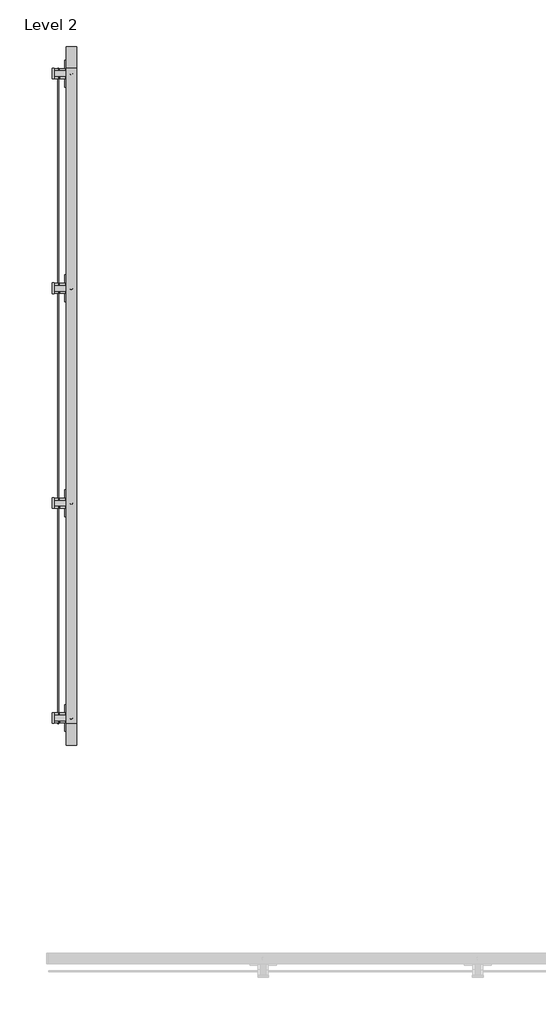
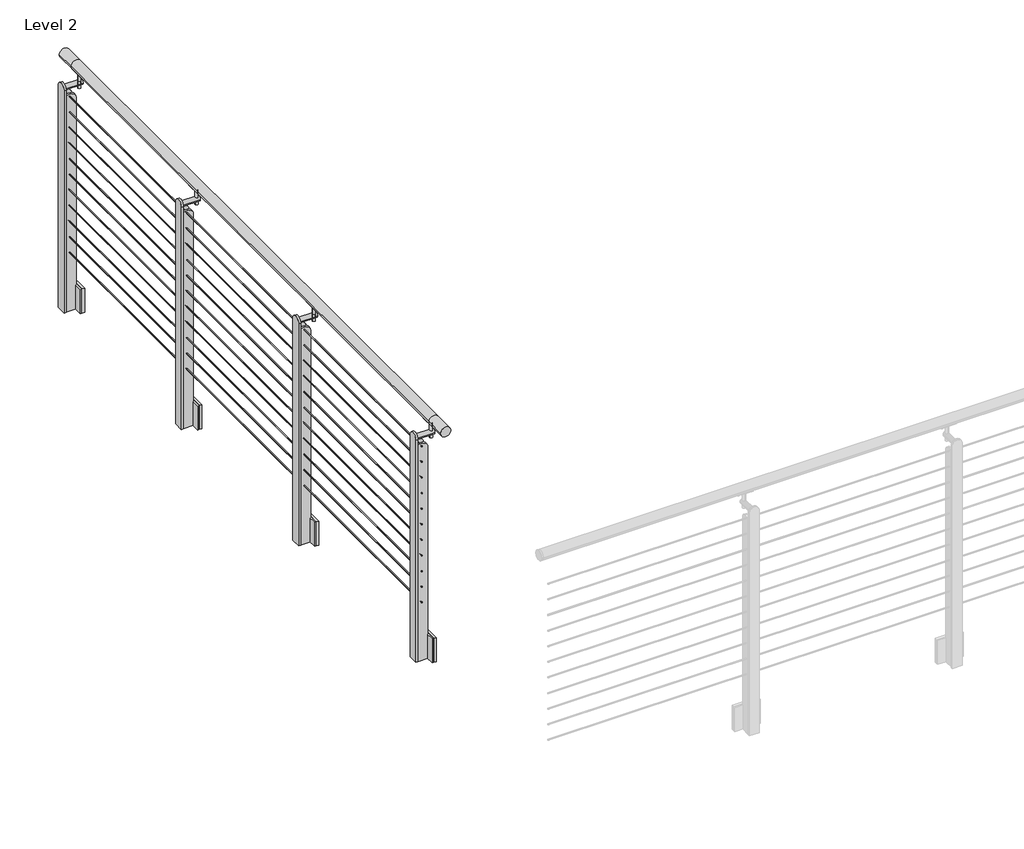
# One storey, part 1 of 12: 1 railing.
"""IFC4 building model written with IfcOpenShell, lengths in millimetres."""

from ifc_helpers import new_model, si_unit, point, frame, frame_2d, origin, place, context, project, spatial, polyline, circle_curve, trimmed, segment, composite_curve, outline, extrude, element, save
from ifc_brep_helpers import plane_surface, cylinder_surface, advanced_brep

model = new_model("IFC4")

# Units and contexts
model_context = context("Model", 3, world=origin())
ifc_project = project(units=[si_unit("LENGTHUNIT", "METRE", prefix="MILLI")], contexts=[model_context])

# Site, building, storey
site = spatial("IfcSite", under=ifc_project)
building = spatial("IfcBuilding", under=site)
storey = spatial("IfcBuildingStorey", under=building, Name="Level 2", Elevation=3048.0)

# Railing
placement = place(None, origin())
element("IfcRailing", 1, ObjectType="VIVA-TEE-Cable-Fascia Mount-Straight", at=placement, inside=storey, context=model_context, shape_type="SolidModel", body=[
    advanced_brep(
    [(-9128.5564794, -51224.8441551, 4102.1), (-9179.3564794, -51224.8441551, 4102.1), (-9128.5564794, -51123.2441551, 4102.1), (-9179.3564794, -51123.2441551, 4102.1), (-9128.5564794, -48021.6926165, 4102.1), (-9179.3564794, -48021.6926165, 4102.1), (-9128.5564794, -47920.0926165, 4102.1), (-9179.3564794, -47920.0926165, 4102.1)],
    [
        (0, 1, circle_curve(frame((-9153.9564794, -51224.8441551, 4102.1), z_axis=(0.0, -1.0, 0.0), x_axis=(-1.0, 0.0, 0.0)), 25.4)),
        (1, 0, circle_curve(frame((-9153.9564794, -51224.8441551, 4102.1), z_axis=(0.0, -1.0, 0.0), x_axis=(-1.0, 0.0, 0.0)), 25.4)),
        (0, 2),
        (2, 3, circle_curve(frame((-9153.9564794, -51123.2441551, 4102.1), z_axis=(0.0, -1.0, 0.0), x_axis=(-1.0, 0.0, 0.0)), 25.4)),
        (3, 1),
        (3, 2, circle_curve(frame((-9153.9564794, -51123.2441551, 4102.1), z_axis=(0.0, -1.0, 0.0), x_axis=(-1.0, 0.0, 0.0)), 25.4)),
        (2, 4),
        (4, 5, circle_curve(frame((-9153.9564794, -48021.6926165, 4102.1), z_axis=(0.0, -1.0, 0.0), x_axis=(-1.0, 0.0, 0.0)), 25.4)),
        (5, 3),
        (5, 4, circle_curve(frame((-9153.9564794, -48021.6926165, 4102.1), z_axis=(0.0, -1.0, 0.0), x_axis=(-1.0, 0.0, 0.0)), 25.4)),
        (6, 7, circle_curve(frame((-9153.9564794, -47920.0926165, 4102.1), z_axis=(0.0, 1.0, 0.0), x_axis=(-1.0, 0.0, 0.0)), 25.4)),
        (7, 6, circle_curve(frame((-9153.9564794, -47920.0926165, 4102.1), z_axis=(0.0, 1.0, 0.0), x_axis=(-1.0, 0.0, 0.0)), 25.4)),
        (4, 6),
        (7, 5),
    ],
    [
        plane_surface(frame((-9153.9564794, -51224.8441551, 4127.5), z_axis=(0.0, -1.0, 0.0), x_axis=(0.0, 0.0, 1.0))),
        cylinder_surface(frame((-9153.9564794, -51224.8441551, 4102.1), z_axis=(0.0, -1.0, 0.0), x_axis=(-1.0, 0.0, 0.0)), 25.4),
        cylinder_surface(frame((-9153.9564794, -51123.2441551, 4102.1), z_axis=(0.0, -1.0, 0.0), x_axis=(-1.0, 0.0, 0.0)), 25.4),
        plane_surface(frame((-9153.9564794, -47920.0926165, 4127.5), z_axis=(0.0, 1.0, 0.0), x_axis=(0.0, 0.0, 1.0))),
        cylinder_surface(frame((-9153.9564794, -48021.6926165, 4102.1), z_axis=(0.0, -1.0, 0.0), x_axis=(-1.0, 0.0, 0.0)), 25.4),
    ],
    [
        (0, [[1, 2]]),
        (1, [[-1, 3, 4, 5]]),
        (1, [[-2, -5, 6, -3]]),
        (2, [[-4, 7, 8, 9]]),
        (2, [[-6, -9, 10, -7]]),
        (3, [[11, 12]]),
        (4, [[-8, 13, -12, 14]]),
        (4, [[-10, -14, -11, -13]]),
    ],
),
    extrude(outline(composite_curve([segment(trimmed(circle_curve(frame_2d((3985.4124, -9214.9164794)), 2.3876), [point((3985.4124, -9212.5288794))], [point((3985.4124, -9217.3040794))], False, "CARTESIAN"), True, "CONTINUOUS"), segment(trimmed(circle_curve(frame_2d((3985.4124, -9214.9164794)), 2.3876), [point((3985.4124, -9217.3040794))], [point((3985.4124, -9212.5288794))], False, "CARTESIAN"), True, "CONTINUOUS")], self_intersect=False)), frame((0.0, -51123.2441551, 0.0), z_axis=(0.0, 1.0, 0.0), x_axis=(0.0, 0.0, 1.0)), (0.0, 0.0, 1.0), 3101.5515385),
    extrude(outline(composite_curve([segment(trimmed(circle_curve(frame_2d((3902.8624, -9214.9164794)), 2.3876), [point((3902.8624, -9212.5288794))], [point((3902.8624, -9217.3040794))], False, "CARTESIAN"), True, "CONTINUOUS"), segment(trimmed(circle_curve(frame_2d((3902.8624, -9214.9164794)), 2.3876), [point((3902.8624, -9217.3040794))], [point((3902.8624, -9212.5288794))], False, "CARTESIAN"), True, "CONTINUOUS")], self_intersect=False)), frame((0.0, -51123.2441551, 0.0), z_axis=(0.0, 1.0, 0.0), x_axis=(0.0, 0.0, 1.0)), (0.0, 0.0, 1.0), 3101.5515385),
    extrude(outline(composite_curve([segment(trimmed(circle_curve(frame_2d((3820.3124, -9214.9164794)), 2.3876), [point((3820.3124, -9212.5288794))], [point((3820.3124, -9217.3040794))], False, "CARTESIAN"), True, "CONTINUOUS"), segment(trimmed(circle_curve(frame_2d((3820.3124, -9214.9164794)), 2.3876), [point((3820.3124, -9217.3040794))], [point((3820.3124, -9212.5288794))], False, "CARTESIAN"), True, "CONTINUOUS")], self_intersect=False)), frame((0.0, -51123.2441551, 0.0), z_axis=(0.0, 1.0, 0.0), x_axis=(0.0, 0.0, 1.0)), (0.0, 0.0, 1.0), 3101.5515385),
    extrude(outline(composite_curve([segment(trimmed(circle_curve(frame_2d((3737.7624, -9214.9164794)), 2.3876), [point((3737.7624, -9212.5288794))], [point((3737.7624, -9217.3040794))], False, "CARTESIAN"), True, "CONTINUOUS"), segment(trimmed(circle_curve(frame_2d((3737.7624, -9214.9164794)), 2.3876), [point((3737.7624, -9217.3040794))], [point((3737.7624, -9212.5288794))], False, "CARTESIAN"), True, "CONTINUOUS")], self_intersect=False)), frame((0.0, -51123.2441551, 0.0), z_axis=(0.0, 1.0, 0.0), x_axis=(0.0, 0.0, 1.0)), (0.0, 0.0, 1.0), 3101.5515385),
    extrude(outline(composite_curve([segment(trimmed(circle_curve(frame_2d((3655.2124, -9214.9164794)), 2.3876), [point((3655.2124, -9212.5288794))], [point((3655.2124, -9217.3040794))], False, "CARTESIAN"), True, "CONTINUOUS"), segment(trimmed(circle_curve(frame_2d((3655.2124, -9214.9164794)), 2.3876), [point((3655.2124, -9217.3040794))], [point((3655.2124, -9212.5288794))], False, "CARTESIAN"), True, "CONTINUOUS")], self_intersect=False)), frame((0.0, -51123.2441551, 0.0), z_axis=(0.0, 1.0, 0.0), x_axis=(0.0, 0.0, 1.0)), (0.0, 0.0, 1.0), 3101.5515385),
    extrude(outline(composite_curve([segment(trimmed(circle_curve(frame_2d((3572.6624, -9214.9164794)), 2.3876), [point((3572.6624, -9212.5288794))], [point((3572.6624, -9217.3040794))], False, "CARTESIAN"), True, "CONTINUOUS"), segment(trimmed(circle_curve(frame_2d((3572.6624, -9214.9164794)), 2.3876), [point((3572.6624, -9217.3040794))], [point((3572.6624, -9212.5288794))], False, "CARTESIAN"), True, "CONTINUOUS")], self_intersect=False)), frame((0.0, -51123.2441551, 0.0), z_axis=(0.0, 1.0, 0.0), x_axis=(0.0, 0.0, 1.0)), (0.0, 0.0, 1.0), 3101.5515385),
    extrude(outline(composite_curve([segment(trimmed(circle_curve(frame_2d((3490.1124, -9214.9164794)), 2.3876), [point((3490.1124, -9212.5288794))], [point((3490.1124, -9217.3040794))], False, "CARTESIAN"), True, "CONTINUOUS"), segment(trimmed(circle_curve(frame_2d((3490.1124, -9214.9164794)), 2.3876), [point((3490.1124, -9217.3040794))], [point((3490.1124, -9212.5288794))], False, "CARTESIAN"), True, "CONTINUOUS")], self_intersect=False)), frame((0.0, -51123.2441551, 0.0), z_axis=(0.0, 1.0, 0.0), x_axis=(0.0, 0.0, 1.0)), (0.0, 0.0, 1.0), 3101.5515385),
    extrude(outline(composite_curve([segment(trimmed(circle_curve(frame_2d((3407.5624, -9214.9164794)), 2.3876), [point((3407.5624, -9212.5288794))], [point((3407.5624, -9217.3040794))], False, "CARTESIAN"), True, "CONTINUOUS"), segment(trimmed(circle_curve(frame_2d((3407.5624, -9214.9164794)), 2.3876), [point((3407.5624, -9217.3040794))], [point((3407.5624, -9212.5288794))], False, "CARTESIAN"), True, "CONTINUOUS")], self_intersect=False)), frame((0.0, -51123.2441551, 0.0), z_axis=(0.0, 1.0, 0.0), x_axis=(0.0, 0.0, 1.0)), (0.0, 0.0, 1.0), 3101.5515385),
    extrude(outline(composite_curve([segment(trimmed(circle_curve(frame_2d((3325.0124, -9214.9164794)), 2.3876), [point((3325.0124, -9212.5288794))], [point((3325.0124, -9217.3040794))], False, "CARTESIAN"), True, "CONTINUOUS"), segment(trimmed(circle_curve(frame_2d((3325.0124, -9214.9164794)), 2.3876), [point((3325.0124, -9217.3040794))], [point((3325.0124, -9212.5288794))], False, "CARTESIAN"), True, "CONTINUOUS")], self_intersect=False)), frame((0.0, -51123.2441551, 0.0), z_axis=(0.0, 1.0, 0.0), x_axis=(0.0, 0.0, 1.0)), (0.0, 0.0, 1.0), 3101.5515385),
    extrude(outline(composite_curve([segment(trimmed(circle_curve(frame_2d((3242.4624, -9214.9164794)), 2.3876), [point((3242.4624, -9212.5288794))], [point((3242.4624, -9217.3040794))], False, "CARTESIAN"), True, "CONTINUOUS"), segment(trimmed(circle_curve(frame_2d((3242.4624, -9214.9164794)), 2.3876), [point((3242.4624, -9217.3040794))], [point((3242.4624, -9212.5288794))], False, "CARTESIAN"), True, "CONTINUOUS")], self_intersect=False)), frame((0.0, -51123.2441551, 0.0), z_axis=(0.0, 1.0, 0.0), x_axis=(0.0, 0.0, 1.0)), (0.0, 0.0, 1.0), 3101.5515385),
    extrude(outline(composite_curve([segment(trimmed(circle_curve(frame_2d((3159.9124, -9214.9164794)), 2.3876), [point((3159.9124, -9212.5288794))], [point((3159.9124, -9217.3040794))], False, "CARTESIAN"), True, "CONTINUOUS"), segment(trimmed(circle_curve(frame_2d((3159.9124, -9214.9164794)), 2.3876), [point((3159.9124, -9217.3040794))], [point((3159.9124, -9212.5288794))], False, "CARTESIAN"), True, "CONTINUOUS")], self_intersect=False)), frame((0.0, -51123.2441551, 0.0), z_axis=(0.0, 1.0, 0.0), x_axis=(0.0, 0.0, 1.0)), (0.0, 0.0, 1.0), 3101.5515385),
    extrude(outline(composite_curve([segment(trimmed(circle_curve(frame_2d((0.0, -7.0)), 7.0), [point((0.0, -14.0))], [point((0.0, 0.0))], False, "CARTESIAN"), True, "CONTINUOUS"), segment(trimmed(circle_curve(frame_2d((0.0, -7.0)), 7.0), [point((0.0, 0.0))], [point((0.0, -14.0))], False, "CARTESIAN"), True, "CONTINUOUS")], self_intersect=False)), frame((-9161.3013332, -48048.3946759, 3997.1832524), z_axis=(0.0, 0.004253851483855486, 0.9999909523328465), x_axis=(0.0, 0.9999909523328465, -0.004253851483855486)), (0.0, 0.0, 1.0), 75.97),
    extrude(outline(composite_curve([segment(polyline([(4081.7916463, -9167.6895174), (4080.7742593, -9168.715907)]), True, "CONTINUOUS"), segment(trimmed(circle_curve(frame_2d((4079.7089374, -9167.6599291)), 1.5), [point((4080.7742593, -9168.715907))], [point((4078.5780156, -9168.6453306))], False, "CARTESIAN"), True, "CONTINUOUS"), segment(trimmed(circle_curve(frame_2d((4095.2025651, -9154.1599291)), 22.05), [point((4078.5780156, -9168.6453306))], [point((4078.5780156, -9139.6745277))], False, "CARTESIAN"), True, "CONTINUOUS"), segment(trimmed(circle_curve(frame_2d((4079.7089374, -9140.6599291)), 1.5), [point((4078.5780156, -9139.6745277))], [point((4080.7742593, -9139.6039513))], False, "CARTESIAN"), True, "CONTINUOUS"), segment(polyline([(4080.7742593, -9139.6039513), (4081.7916463, -9140.6303409)]), True, "CONTINUOUS"), segment(trimmed(circle_curve(frame_2d((4095.2025651, -9154.1599291)), 19.05), [point((4081.7916463, -9140.6303409))], [point((4081.7916463, -9167.6895174))], True, "CARTESIAN"), True, "CONTINUOUS")], self_intersect=False)), frame((0.0, -48083.9331501, 0.0), z_axis=(0.0, 1.0, 0.0), x_axis=(0.0, 0.0, 1.0)), (0.0, 0.0, 1.0), 74.5229187),
    extrude(outline(composite_curve([segment(trimmed(circle_curve(frame_2d((-48048.1903454, 4024.1259188)), 12.5), [point((-48060.6903454, 4024.1259188))], [point((-48035.6903454, 4024.1259188))], False, "CARTESIAN"), True, "CONTINUOUS"), segment(trimmed(circle_curve(frame_2d((-48048.1903454, 4024.1259188)), 12.5), [point((-48035.6903454, 4024.1259188))], [point((-48060.6903454, 4024.1259188))], False, "CARTESIAN"), True, "CONTINUOUS")], self_intersect=False)), frame((-9234.0673191, 0.0, 0.0), z_axis=(1.0, 0.0, 0.0), x_axis=(0.0, 1.0, 0.0)), (0.0, 0.0, 1.0), 92.423),
    extrude(outline(polyline([(-9164.1164794, -47984.5715108), (-9164.1164794, -48111.5715108), (-9176.9989309, -48111.5715108), (-9176.9989309, -47984.5715108), (-9164.1164794, -47984.5715108)])), frame((0.0, 0.0, 2851.15), z_axis=(0.0, 0.0, 1.0), x_axis=(1.0, 0.0, 0.0)), (0.0, 0.0, 1.0), 127.0),
    extrude(outline(composite_curve([segment(polyline([(3997.0075, -9207.9010278), (3997.0075, -9233.9664794), (2851.15, -9233.9664794), (2851.15, -9183.1360278), (3972.2425, -9183.1360278)]), True, "CONTINUOUS"), segment(trimmed(circle_curve(frame_2d((3972.2425, -9207.9010278)), 24.765), [point((3972.2425, -9183.1360278))], [point((3997.0075, -9207.9010278))], False, "CARTESIAN"), True, "CONTINUOUS")], self_intersect=False)), frame((0.0, -48034.0680112, 0.0), z_axis=(0.0, 1.0, 0.0), x_axis=(0.0, 0.0, 1.0)), (0.0, 0.0, 1.0), 9.525),
    extrude(outline(polyline([(-9176.9989309, -48043.3090108), (-9233.9664794, -48043.3090108), (-9233.9664794, -48035.3715108), (-9184.9364309, -48035.3715108), (-9184.9364309, -47984.5715108), (-9176.9989309, -47984.5715108), (-9176.9989309, -48043.3090108)])), frame((0.0, 0.0, 2851.15), z_axis=(0.0, 0.0, 1.0), x_axis=(1.0, 0.0, 0.0)), (0.0, 0.0, 1.0), 127.0),
    extrude(outline(polyline([(-9176.9989309, -48052.8340108), (-9176.9989309, -48111.5715108), (-9184.9364309, -48111.5715108), (-9184.9364309, -48060.7715108), (-9233.9664794, -48060.7715108), (-9233.9664794, -48052.8340108), (-9176.9989309, -48052.8340108)])), frame((0.0, 0.0, 2851.15), z_axis=(0.0, 0.0, 1.0), x_axis=(1.0, 0.0, 0.0)), (0.0, 0.0, 1.0), 127.0),
    extrude(outline(composite_curve([segment(polyline([(-48022.6715108, 2851.15), (-48073.4715108, 2851.15), (-48073.4715108, 4027.17)]), True, "CONTINUOUS"), segment(trimmed(circle_curve(frame_2d((-48048.0715108, 4027.17)), 25.4), [point((-48073.4715108, 4027.17))], [point((-48022.6715108, 4027.17))], False, "CARTESIAN"), True, "CONTINUOUS"), segment(polyline([(-48022.6715108, 4027.17), (-48022.6715108, 2851.15)]), True, "CONTINUOUS")], self_intersect=False)), frame((-9243.4914794, 0.0, 0.0), z_axis=(1.0, 0.0, 0.0), x_axis=(0.0, 1.0, 0.0)), (0.0, 0.0, 1.0), 9.525),
    extrude(outline(composite_curve([segment(polyline([(3997.0075, -9207.9010278), (3997.0075, -9233.9664794), (2851.15, -9233.9664794), (2851.15, -9183.1360278), (3972.2425, -9183.1360278)]), True, "CONTINUOUS"), segment(trimmed(circle_curve(frame_2d((3972.2425, -9207.9010278)), 24.765), [point((3972.2425, -9183.1360278))], [point((3997.0075, -9207.9010278))], False, "CARTESIAN"), True, "CONTINUOUS")], self_intersect=False)), frame((0.0, -48071.6000104, 0.0), z_axis=(0.0, 1.0, 0.0), x_axis=(0.0, 0.0, 1.0)), (0.0, 0.0, 1.0), 9.525),
    extrude(outline(composite_curve([segment(trimmed(circle_curve(frame_2d((0.0, -7.0)), 7.0), [point((0.0, -14.0))], [point((0.0, 0.0))], False, "CARTESIAN"), True, "CONTINUOUS"), segment(trimmed(circle_curve(frame_2d((0.0, -7.0)), 7.0), [point((0.0, 0.0))], [point((0.0, -14.0))], False, "CARTESIAN"), True, "CONTINUOUS")], self_intersect=False)), frame((-9161.3013332, -49064.3946759, 3997.1832524), z_axis=(0.0, 0.004253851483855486, 0.9999909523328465), x_axis=(0.0, 0.9999909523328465, -0.004253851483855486)), (0.0, 0.0, 1.0), 75.97),
    extrude(outline(composite_curve([segment(polyline([(4081.7916463, -9167.6895174), (4080.7742593, -9168.715907)]), True, "CONTINUOUS"), segment(trimmed(circle_curve(frame_2d((4079.7089374, -9167.6599291)), 1.5), [point((4080.7742593, -9168.715907))], [point((4078.5780156, -9168.6453306))], False, "CARTESIAN"), True, "CONTINUOUS"), segment(trimmed(circle_curve(frame_2d((4095.2025651, -9154.1599291)), 22.05), [point((4078.5780156, -9168.6453306))], [point((4078.5780156, -9139.6745277))], False, "CARTESIAN"), True, "CONTINUOUS"), segment(trimmed(circle_curve(frame_2d((4079.7089374, -9140.6599291)), 1.5), [point((4078.5780156, -9139.6745277))], [point((4080.7742593, -9139.6039513))], False, "CARTESIAN"), True, "CONTINUOUS"), segment(polyline([(4080.7742593, -9139.6039513), (4081.7916463, -9140.6303409)]), True, "CONTINUOUS"), segment(trimmed(circle_curve(frame_2d((4095.2025651, -9154.1599291)), 19.05), [point((4081.7916463, -9140.6303409))], [point((4081.7916463, -9167.6895174))], True, "CARTESIAN"), True, "CONTINUOUS")], self_intersect=False)), frame((0.0, -49099.9331501, 0.0), z_axis=(0.0, 1.0, 0.0), x_axis=(0.0, 0.0, 1.0)), (0.0, 0.0, 1.0), 74.5229187),
    extrude(outline(composite_curve([segment(trimmed(circle_curve(frame_2d((-49064.1903454, 4024.1259188)), 12.5), [point((-49076.6903454, 4024.1259188))], [point((-49051.6903454, 4024.1259188))], False, "CARTESIAN"), True, "CONTINUOUS"), segment(trimmed(circle_curve(frame_2d((-49064.1903454, 4024.1259188)), 12.5), [point((-49051.6903454, 4024.1259188))], [point((-49076.6903454, 4024.1259188))], False, "CARTESIAN"), True, "CONTINUOUS")], self_intersect=False)), frame((-9234.0673191, 0.0, 0.0), z_axis=(1.0, 0.0, 0.0), x_axis=(0.0, 1.0, 0.0)), (0.0, 0.0, 1.0), 92.423),
    extrude(outline(polyline([(-9164.1164794, -49000.5715108), (-9164.1164794, -49127.5715108), (-9176.9989309, -49127.5715108), (-9176.9989309, -49000.5715108), (-9164.1164794, -49000.5715108)])), frame((0.0, 0.0, 2851.15), z_axis=(0.0, 0.0, 1.0), x_axis=(1.0, 0.0, 0.0)), (0.0, 0.0, 1.0), 127.0),
    extrude(outline(composite_curve([segment(polyline([(3997.0075, -9207.9010278), (3997.0075, -9233.9664794), (2851.15, -9233.9664794), (2851.15, -9183.1360278), (3972.2425, -9183.1360278)]), True, "CONTINUOUS"), segment(trimmed(circle_curve(frame_2d((3972.2425, -9207.9010278)), 24.765), [point((3972.2425, -9183.1360278))], [point((3997.0075, -9207.9010278))], False, "CARTESIAN"), True, "CONTINUOUS")], self_intersect=False)), frame((0.0, -49050.0680112, 0.0), z_axis=(0.0, 1.0, 0.0), x_axis=(0.0, 0.0, 1.0)), (0.0, 0.0, 1.0), 9.525),
    extrude(outline(polyline([(-9176.9989309, -49059.3090108), (-9233.9664794, -49059.3090108), (-9233.9664794, -49051.3715108), (-9184.9364309, -49051.3715108), (-9184.9364309, -49000.5715108), (-9176.9989309, -49000.5715108), (-9176.9989309, -49059.3090108)])), frame((0.0, 0.0, 2851.15), z_axis=(0.0, 0.0, 1.0), x_axis=(1.0, 0.0, 0.0)), (0.0, 0.0, 1.0), 127.0),
    extrude(outline(polyline([(-9176.9989309, -49068.8340108), (-9176.9989309, -49127.5715108), (-9184.9364309, -49127.5715108), (-9184.9364309, -49076.7715108), (-9233.9664794, -49076.7715108), (-9233.9664794, -49068.8340108), (-9176.9989309, -49068.8340108)])), frame((0.0, 0.0, 2851.15), z_axis=(0.0, 0.0, 1.0), x_axis=(1.0, 0.0, 0.0)), (0.0, 0.0, 1.0), 127.0),
    extrude(outline(composite_curve([segment(polyline([(-49038.6715108, 2851.15), (-49089.4715108, 2851.15), (-49089.4715108, 4027.17)]), True, "CONTINUOUS"), segment(trimmed(circle_curve(frame_2d((-49064.0715108, 4027.17)), 25.4), [point((-49089.4715108, 4027.17))], [point((-49038.6715108, 4027.17))], False, "CARTESIAN"), True, "CONTINUOUS"), segment(polyline([(-49038.6715108, 4027.17), (-49038.6715108, 2851.15)]), True, "CONTINUOUS")], self_intersect=False)), frame((-9243.4914794, 0.0, 0.0), z_axis=(1.0, 0.0, 0.0), x_axis=(0.0, 1.0, 0.0)), (0.0, 0.0, 1.0), 9.525),
    extrude(outline(composite_curve([segment(polyline([(3997.0075, -9207.9010278), (3997.0075, -9233.9664794), (2851.15, -9233.9664794), (2851.15, -9183.1360278), (3972.2425, -9183.1360278)]), True, "CONTINUOUS"), segment(trimmed(circle_curve(frame_2d((3972.2425, -9207.9010278)), 24.765), [point((3972.2425, -9183.1360278))], [point((3997.0075, -9207.9010278))], False, "CARTESIAN"), True, "CONTINUOUS")], self_intersect=False)), frame((0.0, -49087.6000104, 0.0), z_axis=(0.0, 1.0, 0.0), x_axis=(0.0, 0.0, 1.0)), (0.0, 0.0, 1.0), 9.525),
    extrude(outline(composite_curve([segment(trimmed(circle_curve(frame_2d((0.0, -7.0)), 7.0), [point((0.0, -14.0))], [point((0.0, 0.0))], False, "CARTESIAN"), True, "CONTINUOUS"), segment(trimmed(circle_curve(frame_2d((0.0, -7.0)), 7.0), [point((0.0, 0.0))], [point((0.0, -14.0))], False, "CARTESIAN"), True, "CONTINUOUS")], self_intersect=False)), frame((-9161.3013332, -50080.3946759, 3997.1832524), z_axis=(0.0, 0.004253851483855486, 0.9999909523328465), x_axis=(0.0, 0.9999909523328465, -0.004253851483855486)), (0.0, 0.0, 1.0), 75.97),
    extrude(outline(composite_curve([segment(polyline([(4081.7916463, -9167.6895174), (4080.7742593, -9168.715907)]), True, "CONTINUOUS"), segment(trimmed(circle_curve(frame_2d((4079.7089374, -9167.6599291)), 1.5), [point((4080.7742593, -9168.715907))], [point((4078.5780156, -9168.6453306))], False, "CARTESIAN"), True, "CONTINUOUS"), segment(trimmed(circle_curve(frame_2d((4095.2025651, -9154.1599291)), 22.05), [point((4078.5780156, -9168.6453306))], [point((4078.5780156, -9139.6745277))], False, "CARTESIAN"), True, "CONTINUOUS"), segment(trimmed(circle_curve(frame_2d((4079.7089374, -9140.6599291)), 1.5), [point((4078.5780156, -9139.6745277))], [point((4080.7742593, -9139.6039513))], False, "CARTESIAN"), True, "CONTINUOUS"), segment(polyline([(4080.7742593, -9139.6039513), (4081.7916463, -9140.6303409)]), True, "CONTINUOUS"), segment(trimmed(circle_curve(frame_2d((4095.2025651, -9154.1599291)), 19.05), [point((4081.7916463, -9140.6303409))], [point((4081.7916463, -9167.6895174))], True, "CARTESIAN"), True, "CONTINUOUS")], self_intersect=False)), frame((0.0, -50115.9331501, 0.0), z_axis=(0.0, 1.0, 0.0), x_axis=(0.0, 0.0, 1.0)), (0.0, 0.0, 1.0), 74.5229187),
    extrude(outline(composite_curve([segment(trimmed(circle_curve(frame_2d((-50080.1903454, 4024.1259188)), 12.5), [point((-50092.6903454, 4024.1259188))], [point((-50067.6903454, 4024.1259188))], False, "CARTESIAN"), True, "CONTINUOUS"), segment(trimmed(circle_curve(frame_2d((-50080.1903454, 4024.1259188)), 12.5), [point((-50067.6903454, 4024.1259188))], [point((-50092.6903454, 4024.1259188))], False, "CARTESIAN"), True, "CONTINUOUS")], self_intersect=False)), frame((-9234.0673191, 0.0, 0.0), z_axis=(1.0, 0.0, 0.0), x_axis=(0.0, 1.0, 0.0)), (0.0, 0.0, 1.0), 92.423),
    extrude(outline(polyline([(-9164.1164794, -50016.5715108), (-9164.1164794, -50143.5715108), (-9176.9989309, -50143.5715108), (-9176.9989309, -50016.5715108), (-9164.1164794, -50016.5715108)])), frame((0.0, 0.0, 2851.15), z_axis=(0.0, 0.0, 1.0), x_axis=(1.0, 0.0, 0.0)), (0.0, 0.0, 1.0), 127.0),
    extrude(outline(composite_curve([segment(polyline([(3997.0075, -9207.9010278), (3997.0075, -9233.9664794), (2851.15, -9233.9664794), (2851.15, -9183.1360278), (3972.2425, -9183.1360278)]), True, "CONTINUOUS"), segment(trimmed(circle_curve(frame_2d((3972.2425, -9207.9010278)), 24.765), [point((3972.2425, -9183.1360278))], [point((3997.0075, -9207.9010278))], False, "CARTESIAN"), True, "CONTINUOUS")], self_intersect=False)), frame((0.0, -50066.0680112, 0.0), z_axis=(0.0, 1.0, 0.0), x_axis=(0.0, 0.0, 1.0)), (0.0, 0.0, 1.0), 9.525),
    extrude(outline(polyline([(-9176.9989309, -50075.3090108), (-9233.9664794, -50075.3090108), (-9233.9664794, -50067.3715108), (-9184.9364309, -50067.3715108), (-9184.9364309, -50016.5715108), (-9176.9989309, -50016.5715108), (-9176.9989309, -50075.3090108)])), frame((0.0, 0.0, 2851.15), z_axis=(0.0, 0.0, 1.0), x_axis=(1.0, 0.0, 0.0)), (0.0, 0.0, 1.0), 127.0),
    extrude(outline(polyline([(-9176.9989309, -50084.8340108), (-9176.9989309, -50143.5715108), (-9184.9364309, -50143.5715108), (-9184.9364309, -50092.7715108), (-9233.9664794, -50092.7715108), (-9233.9664794, -50084.8340108), (-9176.9989309, -50084.8340108)])), frame((0.0, 0.0, 2851.15), z_axis=(0.0, 0.0, 1.0), x_axis=(1.0, 0.0, 0.0)), (0.0, 0.0, 1.0), 127.0),
    extrude(outline(composite_curve([segment(polyline([(-50054.6715108, 2851.15), (-50105.4715108, 2851.15), (-50105.4715108, 4027.17)]), True, "CONTINUOUS"), segment(trimmed(circle_curve(frame_2d((-50080.0715108, 4027.17)), 25.4), [point((-50105.4715108, 4027.17))], [point((-50054.6715108, 4027.17))], False, "CARTESIAN"), True, "CONTINUOUS"), segment(polyline([(-50054.6715108, 4027.17), (-50054.6715108, 2851.15)]), True, "CONTINUOUS")], self_intersect=False)), frame((-9243.4914794, 0.0, 0.0), z_axis=(1.0, 0.0, 0.0), x_axis=(0.0, 1.0, 0.0)), (0.0, 0.0, 1.0), 9.525),
    extrude(outline(composite_curve([segment(polyline([(3997.0075, -9207.9010278), (3997.0075, -9233.9664794), (2851.15, -9233.9664794), (2851.15, -9183.1360278), (3972.2425, -9183.1360278)]), True, "CONTINUOUS"), segment(trimmed(circle_curve(frame_2d((3972.2425, -9207.9010278)), 24.765), [point((3972.2425, -9183.1360278))], [point((3997.0075, -9207.9010278))], False, "CARTESIAN"), True, "CONTINUOUS")], self_intersect=False)), frame((0.0, -50103.6000104, 0.0), z_axis=(0.0, 1.0, 0.0), x_axis=(0.0, 0.0, 1.0)), (0.0, 0.0, 1.0), 9.525),
    extrude(outline(composite_curve([segment(trimmed(circle_curve(frame_2d((0.0, -7.0)), 7.0), [point((0.0, -14.0))], [point((0.0, 0.0))], False, "CARTESIAN"), True, "CONTINUOUS"), segment(trimmed(circle_curve(frame_2d((0.0, -7.0)), 7.0), [point((0.0, 0.0))], [point((0.0, -14.0))], False, "CARTESIAN"), True, "CONTINUOUS")], self_intersect=False)), frame((-9161.3013332, -51096.3946759, 3997.1832524), z_axis=(0.0, 0.004253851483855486, 0.9999909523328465), x_axis=(0.0, 0.9999909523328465, -0.004253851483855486)), (0.0, 0.0, 1.0), 75.97),
    extrude(outline(composite_curve([segment(polyline([(4081.7916463, -9167.6895174), (4080.7742593, -9168.715907)]), True, "CONTINUOUS"), segment(trimmed(circle_curve(frame_2d((4079.7089374, -9167.6599291)), 1.5), [point((4080.7742593, -9168.715907))], [point((4078.5780156, -9168.6453306))], False, "CARTESIAN"), True, "CONTINUOUS"), segment(trimmed(circle_curve(frame_2d((4095.2025651, -9154.1599291)), 22.05), [point((4078.5780156, -9168.6453306))], [point((4078.5780156, -9139.6745277))], False, "CARTESIAN"), True, "CONTINUOUS"), segment(trimmed(circle_curve(frame_2d((4079.7089374, -9140.6599291)), 1.5), [point((4078.5780156, -9139.6745277))], [point((4080.7742593, -9139.6039513))], False, "CARTESIAN"), True, "CONTINUOUS"), segment(polyline([(4080.7742593, -9139.6039513), (4081.7916463, -9140.6303409)]), True, "CONTINUOUS"), segment(trimmed(circle_curve(frame_2d((4095.2025651, -9154.1599291)), 19.05), [point((4081.7916463, -9140.6303409))], [point((4081.7916463, -9167.6895174))], True, "CARTESIAN"), True, "CONTINUOUS")], self_intersect=False)), frame((0.0, -51131.9331501, 0.0), z_axis=(0.0, 1.0, 0.0), x_axis=(0.0, 0.0, 1.0)), (0.0, 0.0, 1.0), 74.5229187),
    extrude(outline(composite_curve([segment(trimmed(circle_curve(frame_2d((-51096.1903454, 4024.1259188)), 12.5), [point((-51108.6903454, 4024.1259188))], [point((-51083.6903454, 4024.1259188))], False, "CARTESIAN"), True, "CONTINUOUS"), segment(trimmed(circle_curve(frame_2d((-51096.1903454, 4024.1259188)), 12.5), [point((-51083.6903454, 4024.1259188))], [point((-51108.6903454, 4024.1259188))], False, "CARTESIAN"), True, "CONTINUOUS")], self_intersect=False)), frame((-9234.0673191, 0.0, 0.0), z_axis=(1.0, 0.0, 0.0), x_axis=(0.0, 1.0, 0.0)), (0.0, 0.0, 1.0), 92.423),
    extrude(outline(polyline([(-9164.1164794, -51032.5715108), (-9164.1164794, -51159.5715108), (-9176.9989309, -51159.5715108), (-9176.9989309, -51032.5715108), (-9164.1164794, -51032.5715108)])), frame((0.0, 0.0, 2851.15), z_axis=(0.0, 0.0, 1.0), x_axis=(1.0, 0.0, 0.0)), (0.0, 0.0, 1.0), 127.0),
    extrude(outline(composite_curve([segment(polyline([(3997.0075, -9207.9010278), (3997.0075, -9233.9664794), (2851.15, -9233.9664794), (2851.15, -9183.1360278), (3972.2425, -9183.1360278)]), True, "CONTINUOUS"), segment(trimmed(circle_curve(frame_2d((3972.2425, -9207.9010278)), 24.765), [point((3972.2425, -9183.1360278))], [point((3997.0075, -9207.9010278))], False, "CARTESIAN"), True, "CONTINUOUS")], self_intersect=False)), frame((0.0, -51082.0680112, 0.0), z_axis=(0.0, 1.0, 0.0), x_axis=(0.0, 0.0, 1.0)), (0.0, 0.0, 1.0), 9.525),
    extrude(outline(polyline([(-9176.9989309, -51091.3090108), (-9233.9664794, -51091.3090108), (-9233.9664794, -51083.3715108), (-9184.9364309, -51083.3715108), (-9184.9364309, -51032.5715108), (-9176.9989309, -51032.5715108), (-9176.9989309, -51091.3090108)])), frame((0.0, 0.0, 2851.15), z_axis=(0.0, 0.0, 1.0), x_axis=(1.0, 0.0, 0.0)), (0.0, 0.0, 1.0), 127.0),
    extrude(outline(polyline([(-9176.9989309, -51100.8340108), (-9176.9989309, -51159.5715108), (-9184.9364309, -51159.5715108), (-9184.9364309, -51108.7715108), (-9233.9664794, -51108.7715108), (-9233.9664794, -51100.8340108), (-9176.9989309, -51100.8340108)])), frame((0.0, 0.0, 2851.15), z_axis=(0.0, 0.0, 1.0), x_axis=(1.0, 0.0, 0.0)), (0.0, 0.0, 1.0), 127.0),
    extrude(outline(composite_curve([segment(polyline([(-51070.6715108, 2851.15), (-51121.4715108, 2851.15), (-51121.4715108, 4027.17)]), True, "CONTINUOUS"), segment(trimmed(circle_curve(frame_2d((-51096.0715108, 4027.17)), 25.4), [point((-51121.4715108, 4027.17))], [point((-51070.6715108, 4027.17))], False, "CARTESIAN"), True, "CONTINUOUS"), segment(polyline([(-51070.6715108, 4027.17), (-51070.6715108, 2851.15)]), True, "CONTINUOUS")], self_intersect=False)), frame((-9243.4914794, 0.0, 0.0), z_axis=(1.0, 0.0, 0.0), x_axis=(0.0, 1.0, 0.0)), (0.0, 0.0, 1.0), 9.525),
    extrude(outline(composite_curve([segment(polyline([(3997.0075, -9207.9010278), (3997.0075, -9233.9664794), (2851.15, -9233.9664794), (2851.15, -9183.1360278), (3972.2425, -9183.1360278)]), True, "CONTINUOUS"), segment(trimmed(circle_curve(frame_2d((3972.2425, -9207.9010278)), 24.765), [point((3972.2425, -9183.1360278))], [point((3997.0075, -9207.9010278))], False, "CARTESIAN"), True, "CONTINUOUS")], self_intersect=False)), frame((0.0, -51119.6000104, 0.0), z_axis=(0.0, 1.0, 0.0), x_axis=(0.0, 0.0, 1.0)), (0.0, 0.0, 1.0), 9.525),
])

save(model, "model.ifc")
